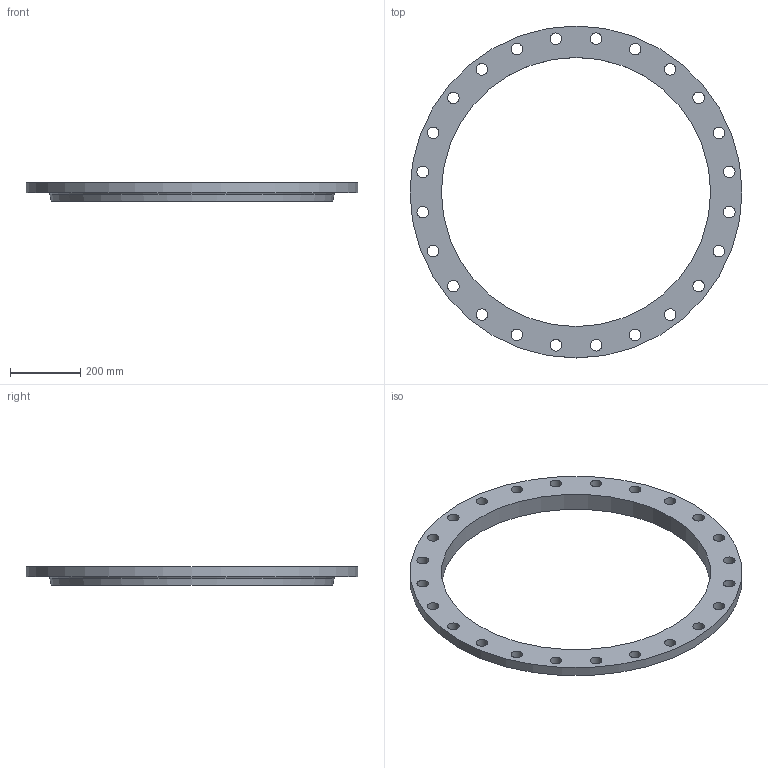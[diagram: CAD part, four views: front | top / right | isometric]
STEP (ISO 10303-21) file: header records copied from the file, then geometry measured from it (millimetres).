
FILE_DESCRIPTION(/* description */ (''),/* implementation_level */ '2;1');
FILE_NAME(/* name */ 'C:\Users\D\Documents\Inventor\HP\JIS\フランジ\JIS 5k soh ff\jis5k-soh-ff-750.stp',/* time_stamp */ '2024-08-29T14:25:13+09:00',/* author */ ('D'),/* organization */ (''),/* preprocessor_version */ 'ST-DEVELOPER v18',/* originating_system */ 'Autodesk Inventor 2020',/* authorisation */ '');
FILE_SCHEMA (('AUTOMOTIVE_DESIGN { 1 0 10303 214 3 1 1 }'));
Length unit declared in the file: millimetre
Products named in the file (1): jis5k-soh-ff-450
Bounding box: 945 x 945 x 52 mm (x, y, z)
Volume: 7355004.7 mm3; surface area: 765779.7 mm2
Topology: 1 solids, 1 shells, 31 faces, 114 edges, 86 vertices
Faces by surface type: cylinder 26, plane 3, cone 1, torus 1
Full cylindrical faces by diameter (mm): 33 x24, 766 x1, 945 x1
Entity records: 1456 total; most frequent: DIRECTION 265, CARTESIAN_POINT 232, ORIENTED_EDGE 228, AXIS2_PLACEMENT_3D 119, EDGE_CURVE 114, CIRCLE 87, VERTEX_POINT 86, EDGE_LOOP 82
